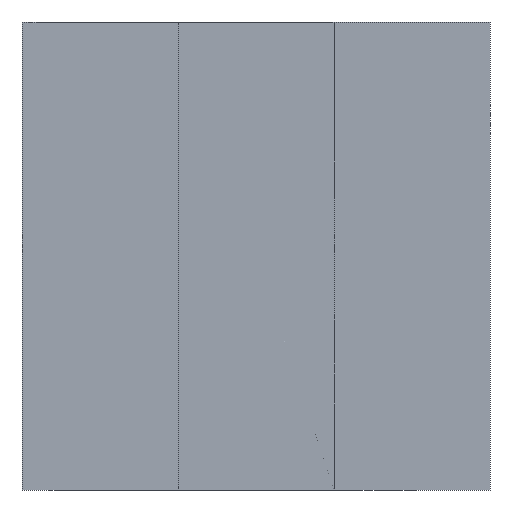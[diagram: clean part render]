
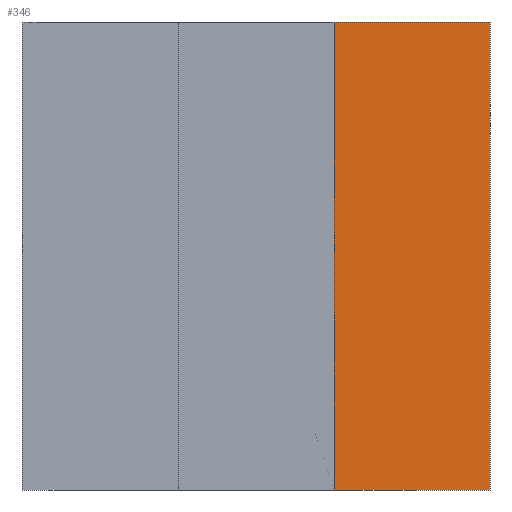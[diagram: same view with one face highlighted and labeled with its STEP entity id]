
A CAD part, front view. The second image highlights one B-rep face of the part: STEP entity #346.
In plain terms, the highlighted planar face has unit normal (0, -1, 0).
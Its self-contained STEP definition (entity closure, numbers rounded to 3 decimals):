
#26=LINE('',#535,#56);
#35=LINE('',#553,#65);
#36=LINE('',#555,#66);
#37=LINE('',#556,#67);
#56=VECTOR('',#441,20.);
#65=VECTOR('',#458,60.);
#66=VECTOR('',#459,20.);
#67=VECTOR('',#460,60.);
#80=PLANE('',#379);
#118=FACE_OUTER_BOUND('',#146,.T.);
#146=EDGE_LOOP('',(#292,#293,#294,#295));
#192=VERTEX_POINT('',#532);
#193=VERTEX_POINT('',#534);
#198=VERTEX_POINT('',#552);
#199=VERTEX_POINT('',#554);
#226=EDGE_CURVE('',#192,#193,#26,.T.);
#235=EDGE_CURVE('',#198,#192,#35,.T.);
#236=EDGE_CURVE('',#199,#198,#36,.T.);
#237=EDGE_CURVE('',#193,#199,#37,.T.);
#292=ORIENTED_EDGE('',*,*,#226,.F.);
#293=ORIENTED_EDGE('',*,*,#235,.F.);
#294=ORIENTED_EDGE('',*,*,#236,.F.);
#295=ORIENTED_EDGE('',*,*,#237,.F.);
#346=ADVANCED_FACE('',(#118),#80,.F.);
#379=AXIS2_PLACEMENT_3D('',#551,#456,#457);
#441=DIRECTION('',(1.,0.,0.));
#456=DIRECTION('center_axis',(0.,1.,0.));
#457=DIRECTION('ref_axis',(-1.,0.,0.));
#458=DIRECTION('',(0.,0.,1.));
#459=DIRECTION('',(-1.,0.,0.));
#460=DIRECTION('',(0.,0.,-1.));
#532=CARTESIAN_POINT('',(10.,0.,30.));
#534=CARTESIAN_POINT('',(30.,0.,30.));
#535=CARTESIAN_POINT('',(23.014,0.,30.));
#551=CARTESIAN_POINT('Origin',(46.027,0.,0.));
#552=CARTESIAN_POINT('',(10.,0.,-30.));
#553=CARTESIAN_POINT('',(10.,0.,0.));
#554=CARTESIAN_POINT('',(30.,0.,-30.));
#555=CARTESIAN_POINT('',(23.014,0.,-30.));
#556=CARTESIAN_POINT('',(30.,0.,0.));
